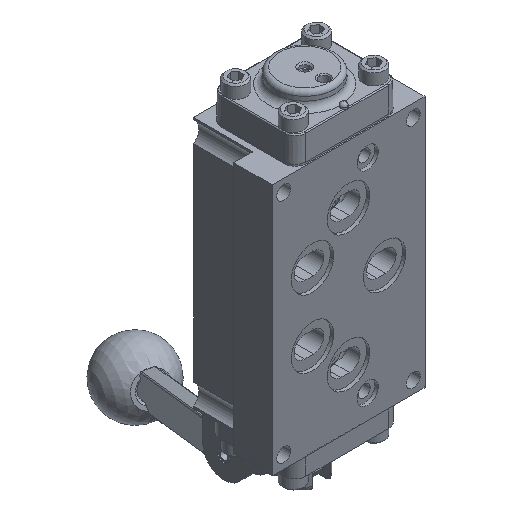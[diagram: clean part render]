
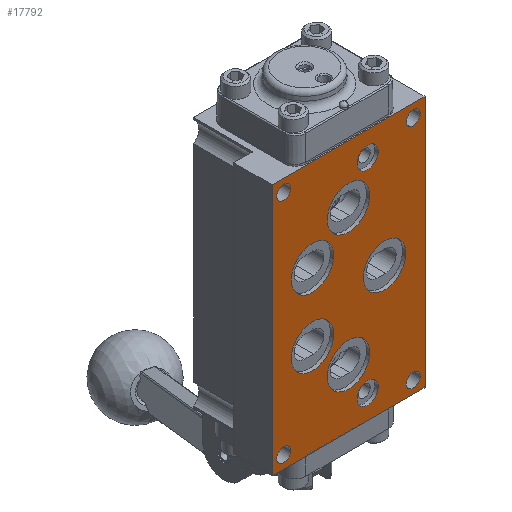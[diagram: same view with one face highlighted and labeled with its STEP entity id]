
A CAD part, isometric view. The second image highlights one B-rep face of the part: STEP entity #17792.
In plain terms, the highlighted planar face has unit normal (0, -1, 0).
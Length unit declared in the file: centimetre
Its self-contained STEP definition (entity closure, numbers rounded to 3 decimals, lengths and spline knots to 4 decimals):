
#488=FACE_BOUND('',#2307,.T.);
#489=FACE_BOUND('',#2308,.T.);
#490=FACE_BOUND('',#2309,.T.);
#491=FACE_BOUND('',#2310,.T.);
#492=FACE_BOUND('',#2311,.T.);
#493=FACE_BOUND('',#2312,.T.);
#494=FACE_BOUND('',#2313,.T.);
#495=FACE_BOUND('',#2314,.T.);
#496=FACE_BOUND('',#2315,.T.);
#497=FACE_BOUND('',#2316,.T.);
#498=FACE_BOUND('',#2317,.T.);
#672=PLANE('',#19108);
#1204=FACE_OUTER_BOUND('',#2306,.T.);
#2306=EDGE_LOOP('',(#12078,#12079,#12080,#12081));
#2307=EDGE_LOOP('',(#12082));
#2308=EDGE_LOOP('',(#12083));
#2309=EDGE_LOOP('',(#12084));
#2310=EDGE_LOOP('',(#12085));
#2311=EDGE_LOOP('',(#12086));
#2312=EDGE_LOOP('',(#12087));
#2313=EDGE_LOOP('',(#12088));
#2314=EDGE_LOOP('',(#12089));
#2315=EDGE_LOOP('',(#12090));
#2316=EDGE_LOOP('',(#12091));
#2317=EDGE_LOOP('',(#12092));
#3796=LINE('',#26539,#4970);
#3810=LINE('',#26586,#4984);
#3936=LINE('',#27390,#5110);
#3937=LINE('',#27394,#5111);
#4970=VECTOR('',#21089,1.);
#4984=VECTOR('',#21125,1.);
#5110=VECTOR('',#21733,1.);
#5111=VECTOR('',#21740,1.);
#6224=CIRCLE('',#19048,0.3962);
#6228=CIRCLE('',#19056,0.3962);
#6230=CIRCLE('',#19061,0.7938);
#6232=CIRCLE('',#19065,0.7938);
#6234=CIRCLE('',#19069,0.7938);
#6236=CIRCLE('',#19073,0.7938);
#6238=CIRCLE('',#19077,0.7938);
#6241=CIRCLE('',#19082,0.258);
#6244=CIRCLE('',#19087,0.258);
#6247=CIRCLE('',#19092,0.258);
#6250=CIRCLE('',#19097,0.258);
#7159=VERTEX_POINT('',#26535);
#7161=VERTEX_POINT('',#26538);
#7181=VERTEX_POINT('',#26582);
#7183=VERTEX_POINT('',#26585);
#7327=VERTEX_POINT('',#27271);
#7332=VERTEX_POINT('',#27287);
#7334=VERTEX_POINT('',#27296);
#7336=VERTEX_POINT('',#27303);
#7338=VERTEX_POINT('',#27310);
#7340=VERTEX_POINT('',#27317);
#7342=VERTEX_POINT('',#27324);
#7346=VERTEX_POINT('',#27336);
#7350=VERTEX_POINT('',#27348);
#7354=VERTEX_POINT('',#27360);
#7358=VERTEX_POINT('',#27372);
#8843=EDGE_CURVE('',#7161,#7159,#3796,.T.);
#8865=EDGE_CURVE('',#7183,#7181,#3810,.T.);
#9078=EDGE_CURVE('',#7327,#7327,#6224,.T.);
#9085=EDGE_CURVE('',#7332,#7332,#6228,.T.);
#9089=EDGE_CURVE('',#7334,#7334,#6230,.T.);
#9092=EDGE_CURVE('',#7336,#7336,#6232,.T.);
#9095=EDGE_CURVE('',#7338,#7338,#6234,.T.);
#9098=EDGE_CURVE('',#7340,#7340,#6236,.T.);
#9101=EDGE_CURVE('',#7342,#7342,#6238,.T.);
#9108=EDGE_CURVE('',#7346,#7346,#6241,.T.);
#9114=EDGE_CURVE('',#7350,#7350,#6244,.T.);
#9120=EDGE_CURVE('',#7354,#7354,#6247,.T.);
#9126=EDGE_CURVE('',#7358,#7358,#6250,.T.);
#9135=EDGE_CURVE('',#7159,#7183,#3936,.T.);
#9136=EDGE_CURVE('',#7181,#7161,#3937,.T.);
#12078=ORIENTED_EDGE('',*,*,#8843,.T.);
#12079=ORIENTED_EDGE('',*,*,#9135,.T.);
#12080=ORIENTED_EDGE('',*,*,#8865,.T.);
#12081=ORIENTED_EDGE('',*,*,#9136,.T.);
#12082=ORIENTED_EDGE('',*,*,#9078,.T.);
#12083=ORIENTED_EDGE('',*,*,#9085,.T.);
#12084=ORIENTED_EDGE('',*,*,#9089,.T.);
#12085=ORIENTED_EDGE('',*,*,#9092,.T.);
#12086=ORIENTED_EDGE('',*,*,#9095,.T.);
#12087=ORIENTED_EDGE('',*,*,#9098,.T.);
#12088=ORIENTED_EDGE('',*,*,#9101,.T.);
#12089=ORIENTED_EDGE('',*,*,#9108,.T.);
#12090=ORIENTED_EDGE('',*,*,#9114,.T.);
#12091=ORIENTED_EDGE('',*,*,#9120,.T.);
#12092=ORIENTED_EDGE('',*,*,#9126,.T.);
#17792=ADVANCED_FACE('',(#1204,#488,#489,#490,#491,#492,#493,#494,#495,
#496,#497,#498),#672,.T.);
#19048=AXIS2_PLACEMENT_3D('',#27272,#21589,#21590);
#19056=AXIS2_PLACEMENT_3D('',#27288,#21608,#21609);
#19061=AXIS2_PLACEMENT_3D('',#27297,#21620,#21621);
#19065=AXIS2_PLACEMENT_3D('',#27304,#21629,#21630);
#19069=AXIS2_PLACEMENT_3D('',#27311,#21638,#21639);
#19073=AXIS2_PLACEMENT_3D('',#27318,#21647,#21648);
#19077=AXIS2_PLACEMENT_3D('',#27325,#21656,#21657);
#19082=AXIS2_PLACEMENT_3D('',#27338,#21670,#21671);
#19087=AXIS2_PLACEMENT_3D('',#27350,#21683,#21684);
#19092=AXIS2_PLACEMENT_3D('',#27362,#21696,#21697);
#19097=AXIS2_PLACEMENT_3D('',#27374,#21709,#21710);
#19108=AXIS2_PLACEMENT_3D('',#27395,#21741,#21742);
#21089=DIRECTION('',(-1.,0.,0.));
#21125=DIRECTION('',(1.,0.,0.));
#21589=DIRECTION('center_axis',(0.,1.,0.));
#21590=DIRECTION('ref_axis',(1.,0.,0.));
#21608=DIRECTION('center_axis',(0.,1.,0.));
#21609=DIRECTION('ref_axis',(1.,0.,0.));
#21620=DIRECTION('center_axis',(0.,1.,0.));
#21621=DIRECTION('ref_axis',(1.,0.,0.));
#21629=DIRECTION('center_axis',(0.,1.,0.));
#21630=DIRECTION('ref_axis',(1.,0.,0.));
#21638=DIRECTION('center_axis',(0.,1.,0.));
#21639=DIRECTION('ref_axis',(1.,0.,0.));
#21647=DIRECTION('center_axis',(0.,1.,0.));
#21648=DIRECTION('ref_axis',(1.,0.,0.));
#21656=DIRECTION('center_axis',(0.,1.,0.));
#21657=DIRECTION('ref_axis',(1.,0.,0.));
#21670=DIRECTION('center_axis',(0.,1.,0.));
#21671=DIRECTION('ref_axis',(1.,0.,0.));
#21683=DIRECTION('center_axis',(0.,1.,0.));
#21684=DIRECTION('ref_axis',(1.,0.,0.));
#21696=DIRECTION('center_axis',(0.,1.,0.));
#21697=DIRECTION('ref_axis',(1.,0.,0.));
#21709=DIRECTION('center_axis',(0.,1.,0.));
#21710=DIRECTION('ref_axis',(1.,0.,0.));
#21733=DIRECTION('',(0.,0.,-1.));
#21740=DIRECTION('',(0.,0.,1.));
#21741=DIRECTION('center_axis',(0.,-1.,0.));
#21742=DIRECTION('ref_axis',(0.,0.,-1.));
#26535=CARTESIAN_POINT('',(-2.8575,-1.6358,4.7104));
#26538=CARTESIAN_POINT('',(2.8575,-1.6358,4.7104));
#26539=CARTESIAN_POINT('',(-2.8575,-1.6358,4.7104));
#26582=CARTESIAN_POINT('',(2.8575,-1.6358,-4.7104));
#26585=CARTESIAN_POINT('',(-2.8575,-1.6358,-4.7104));
#26586=CARTESIAN_POINT('',(-2.8575,-1.6358,-4.7104));
#27271=CARTESIAN_POINT('',(0.3175,-1.6358,-3.81));
#27272=CARTESIAN_POINT('Origin',(0.7137,-1.6358,-3.81));
#27287=CARTESIAN_POINT('',(0.3175,-1.6358,3.81));
#27288=CARTESIAN_POINT('Origin',(0.7137,-1.6358,3.81));
#27296=CARTESIAN_POINT('',(0.555,-1.6358,0.));
#27297=CARTESIAN_POINT('Origin',(1.3487,-1.6358,0.));
#27303=CARTESIAN_POINT('',(-0.7938,-1.6358,-2.54));
#27304=CARTESIAN_POINT('Origin',(0.,-1.6358,-2.54));
#27310=CARTESIAN_POINT('',(-0.7938,-1.6358,2.54));
#27311=CARTESIAN_POINT('Origin',(0.,-1.6358,2.54));
#27317=CARTESIAN_POINT('',(-2.1425,-1.6358,-1.27));
#27318=CARTESIAN_POINT('Origin',(-1.3487,-1.6358,-1.27));
#27324=CARTESIAN_POINT('',(-2.1425,-1.6358,1.27));
#27325=CARTESIAN_POINT('Origin',(-1.3487,-1.6358,1.27));
#27336=CARTESIAN_POINT('',(-2.6786,-1.6358,4.2469));
#27338=CARTESIAN_POINT('Origin',(-2.4206,-1.6358,4.2469));
#27348=CARTESIAN_POINT('',(2.1627,-1.6358,4.2469));
#27350=CARTESIAN_POINT('Origin',(2.4206,-1.6358,4.2469));
#27360=CARTESIAN_POINT('',(2.1627,-1.6358,-4.2469));
#27362=CARTESIAN_POINT('Origin',(2.4206,-1.6358,-4.2469));
#27372=CARTESIAN_POINT('',(-2.6786,-1.6358,-4.2469));
#27374=CARTESIAN_POINT('Origin',(-2.4206,-1.6358,-4.2469));
#27390=CARTESIAN_POINT('',(-2.8575,-1.6358,0.));
#27394=CARTESIAN_POINT('',(2.8575,-1.6358,0.));
#27395=CARTESIAN_POINT('Origin',(2.8575,-1.6358,0.));
